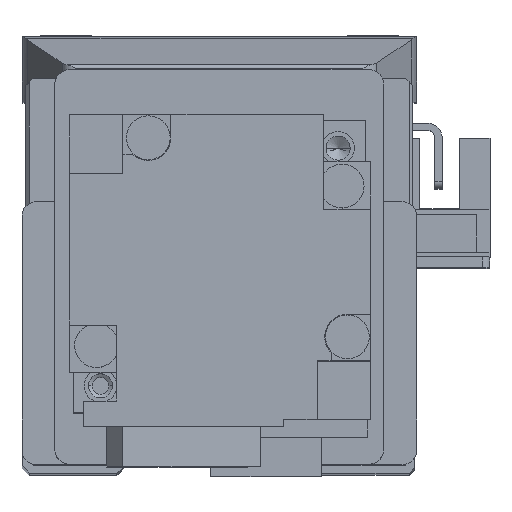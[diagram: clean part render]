
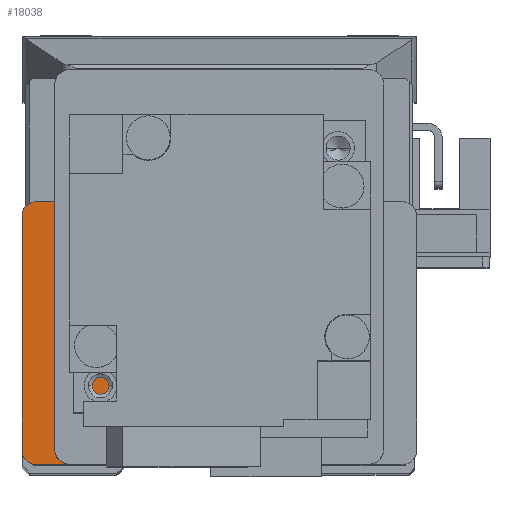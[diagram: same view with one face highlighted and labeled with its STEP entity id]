
A CAD part, top view. The second image highlights one B-rep face of the part: STEP entity #18038.
In plain terms, the highlighted planar face has unit normal (0, 0, 1) as drawn and (0, 0, -1) by its records, which use the part's own axes.
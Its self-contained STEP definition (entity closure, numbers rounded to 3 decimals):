
#659 = EDGE_CURVE ( 'NONE', #31619, #5597, #35844, .T. ) ;
#679 = DIRECTION ( 'NONE',  ( 0., 1., 0. ) ) ;
#2331 = CARTESIAN_POINT ( 'NONE',  ( 16., -17., 16.25 ) ) ;
#2441 = DIRECTION ( 'NONE',  ( 0., 0., 1. ) ) ;
#2590 = ORIENTED_EDGE ( 'NONE', *, *, #659, .F. ) ;
#2795 = DIRECTION ( 'NONE',  ( 1., 0., 0. ) ) ;
#3097 = VERTEX_POINT ( 'NONE', #3809 ) ;
#3154 = VERTEX_POINT ( 'NONE', #7079 ) ;
#3618 = CARTESIAN_POINT ( 'NONE',  ( 22.5, 27., 16.25 ) ) ;
#3809 = CARTESIAN_POINT ( 'NONE',  ( 11., -17., 16.25 ) ) ;
#4234 = CARTESIAN_POINT ( 'NONE',  ( 25., 9., 16.25 ) ) ;
#4890 = ORIENTED_EDGE ( 'NONE', *, *, #34708, .F. ) ;
#5597 = VERTEX_POINT ( 'NONE', #11499 ) ;
#6007 = CARTESIAN_POINT ( 'NONE',  ( 25., 9., 16.25 ) ) ;
#6190 = AXIS2_PLACEMENT_3D ( 'NONE', #2331, #2441, #21688 ) ;
#7079 = CARTESIAN_POINT ( 'NONE',  ( 27., 7., 16.25 ) ) ;
#7184 = CARTESIAN_POINT ( 'NONE',  ( 25., 7., 16.25 ) ) ;
#7400 = CARTESIAN_POINT ( 'NONE',  ( 11., -27., 16.25 ) ) ;
#8092 = AXIS2_PLACEMENT_3D ( 'NONE', #7184, #17828, #20732 ) ;
#8438 = DIRECTION ( 'NONE',  ( 0., 0., 1. ) ) ;
#8958 = CARTESIAN_POINT ( 'NONE',  ( 25., -27., 16.25 ) ) ;
#8990 = LINE ( 'NONE', #17734, #24124 ) ;
#9208 = VECTOR ( 'NONE', #23737, 1000. ) ;
#9434 = VERTEX_POINT ( 'NONE', #23857 ) ;
#10127 = VECTOR ( 'NONE', #2795, 1000. ) ;
#10944 = DIRECTION ( 'NONE',  ( 0., 0., 1. ) ) ;
#11387 = EDGE_CURVE ( 'NONE', #31399, #9434, #12689, .T. ) ;
#11499 = CARTESIAN_POINT ( 'NONE',  ( 27., -25., 16.25 ) ) ;
#11510 = CIRCLE ( 'NONE', #6190, 5. ) ;
#11706 = ORIENTED_EDGE ( 'NONE', *, *, #18474, .F. ) ;
#11944 = VECTOR ( 'NONE', #19463, 1000. ) ;
#12294 = FACE_OUTER_BOUND ( 'NONE', #20397, .T. ) ;
#12689 = LINE ( 'NONE', #3618, #28625 ) ;
#12827 = ORIENTED_EDGE ( 'NONE', *, *, #26268, .T. ) ;
#15021 = AXIS2_PLACEMENT_3D ( 'NONE', #25473, #8438, #16774 ) ;
#15326 = LINE ( 'NONE', #30445, #10127 ) ;
#15782 = CARTESIAN_POINT ( 'NONE',  ( 16., -12., 16.25 ) ) ;
#16738 = LINE ( 'NONE', #30164, #22391 ) ;
#16774 = DIRECTION ( 'NONE',  ( 1., 0., 0. ) ) ;
#17734 = CARTESIAN_POINT ( 'NONE',  ( 27., 27., 16.25 ) ) ;
#17828 = DIRECTION ( 'NONE',  ( 0., 0., -1. ) ) ;
#18038 = ADVANCED_FACE ( 'NONE', ( #12294 ), #19158, .F. ) ;
#18045 = LINE ( 'NONE', #6007, #11944 ) ;
#18474 = EDGE_CURVE ( 'NONE', #3097, #31773, #27351, .T. ) ;
#19158 = PLANE ( 'NONE',  #35112 ) ;
#19463 = DIRECTION ( 'NONE',  ( -1., 0., 0. ) ) ;
#19582 = DIRECTION ( 'NONE',  ( -1., 0., 0. ) ) ;
#19909 = ORIENTED_EDGE ( 'NONE', *, *, #28252, .F. ) ;
#20397 = EDGE_LOOP ( 'NONE', ( #4890, #31680, #31137, #26517, #12827, #2590, #29806, #11706, #19909 ) ) ;
#20732 = DIRECTION ( 'NONE',  ( 1., 0., 0. ) ) ;
#21688 = DIRECTION ( 'NONE',  ( 1., 0., 0. ) ) ;
#22391 = VECTOR ( 'NONE', #19582, 1000. ) ;
#23390 = EDGE_CURVE ( 'NONE', #25886, #9434, #18045, .T. ) ;
#23737 = DIRECTION ( 'NONE',  ( 0., -1., 0. ) ) ;
#23857 = CARTESIAN_POINT ( 'NONE',  ( 22.5, 9., 16.25 ) ) ;
#24124 = VECTOR ( 'NONE', #31119, 1000. ) ;
#24730 = CIRCLE ( 'NONE', #8092, 2. ) ;
#25473 = CARTESIAN_POINT ( 'NONE',  ( 25., -25., 16.25 ) ) ;
#25886 = VERTEX_POINT ( 'NONE', #4234 ) ;
#26268 = EDGE_CURVE ( 'NONE', #3154, #5597, #8990, .T. ) ;
#26517 = ORIENTED_EDGE ( 'NONE', *, *, #29839, .T. ) ;
#27351 = LINE ( 'NONE', #7400, #9208 ) ;
#28252 = EDGE_CURVE ( 'NONE', #34023, #3097, #11510, .T. ) ;
#28625 = VECTOR ( 'NONE', #679, 1000. ) ;
#29226 = CARTESIAN_POINT ( 'NONE',  ( 11., -27., 16.25 ) ) ;
#29806 = ORIENTED_EDGE ( 'NONE', *, *, #33167, .F. ) ;
#29839 = EDGE_CURVE ( 'NONE', #25886, #3154, #24730, .T. ) ;
#29973 = CARTESIAN_POINT ( 'NONE',  ( 22.5, -12., 16.25 ) ) ;
#30164 = CARTESIAN_POINT ( 'NONE',  ( 22.5, -12., 16.25 ) ) ;
#30229 = DIRECTION ( 'NONE',  ( 1., 0., 0. ) ) ;
#30338 = CARTESIAN_POINT ( 'NONE',  ( 25., -25., 16.25 ) ) ;
#30445 = CARTESIAN_POINT ( 'NONE',  ( -25., -27., 16.25 ) ) ;
#31119 = DIRECTION ( 'NONE',  ( 0., -1., 0. ) ) ;
#31137 = ORIENTED_EDGE ( 'NONE', *, *, #23390, .F. ) ;
#31399 = VERTEX_POINT ( 'NONE', #29973 ) ;
#31619 = VERTEX_POINT ( 'NONE', #8958 ) ;
#31680 = ORIENTED_EDGE ( 'NONE', *, *, #11387, .T. ) ;
#31773 = VERTEX_POINT ( 'NONE', #29226 ) ;
#33167 = EDGE_CURVE ( 'NONE', #31773, #31619, #15326, .T. ) ;
#34023 = VERTEX_POINT ( 'NONE', #15782 ) ;
#34708 = EDGE_CURVE ( 'NONE', #31399, #34023, #16738, .T. ) ;
#35112 = AXIS2_PLACEMENT_3D ( 'NONE', #30338, #10944, #30229 ) ;
#35844 = CIRCLE ( 'NONE', #15021, 2. ) ;
